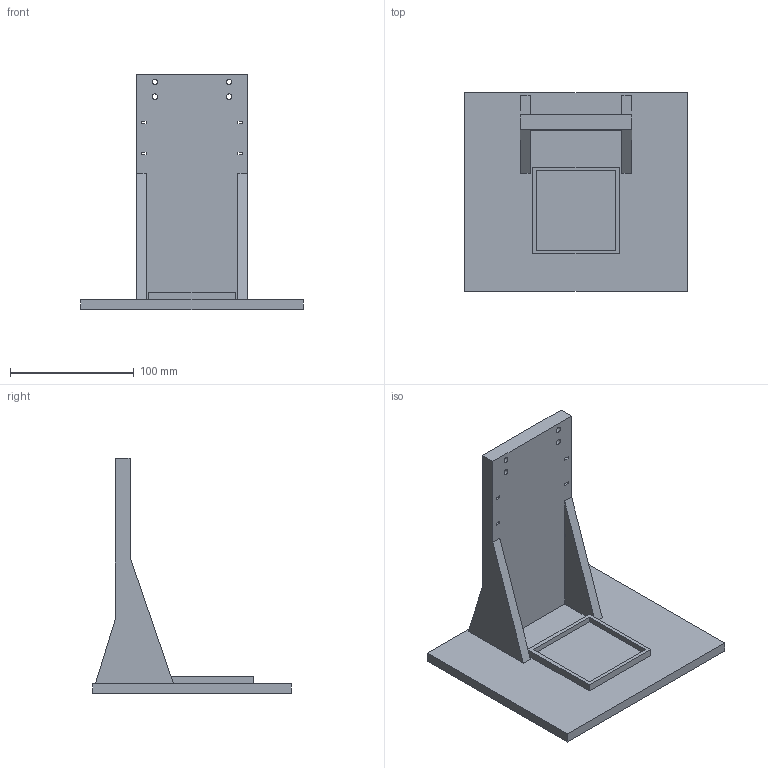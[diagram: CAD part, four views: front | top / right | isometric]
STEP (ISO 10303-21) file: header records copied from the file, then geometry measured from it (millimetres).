
FILE_DESCRIPTION(('Open CASCADE Model'),'2;1');
FILE_NAME('Open CASCADE Shape Model','2026-11-11T17:26:38',('Author'),( 'Open CASCADE'),'Open CASCADE STEP processor 7.9','Open CASCADE 7.9' ,'Unknown');
FILE_SCHEMA(('AUTOMOTIVE_DESIGN { 1 0 10303 214 1 1 1 1 }'));
Length unit declared in the file: millimetre
Products named in the file (1): Open CASCADE STEP translator 7.9 2
Bounding box: 180 x 160 x 190 mm (x, y, z)
Volume: 471788.6 mm3; surface area: 112487.2 mm2
Topology: 1 solids, 1 shells, 59 faces, 164 edges, 108 vertices
Faces by surface type: plane 55, cylinder 4
Full cylindrical faces by diameter (mm): 4.5 x4
Entity records: 3948 total; most frequent: CARTESIAN_POINT 748, DIRECTION 532, LINE 388, VECTOR 388, ORIENTED_EDGE 328, PCURVE 328, DEFINITIONAL_REPRESENTATION 328, EDGE_CURVE 164
